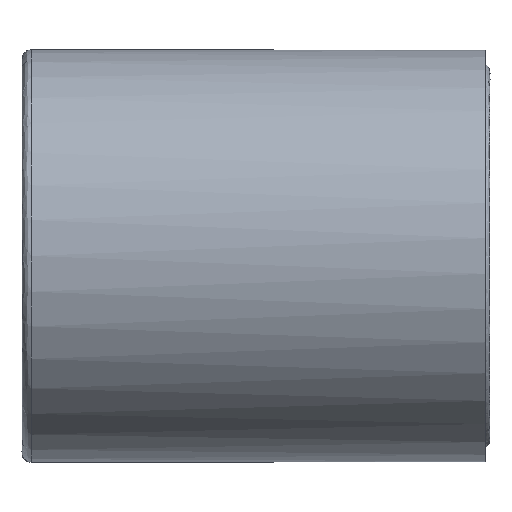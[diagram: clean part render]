
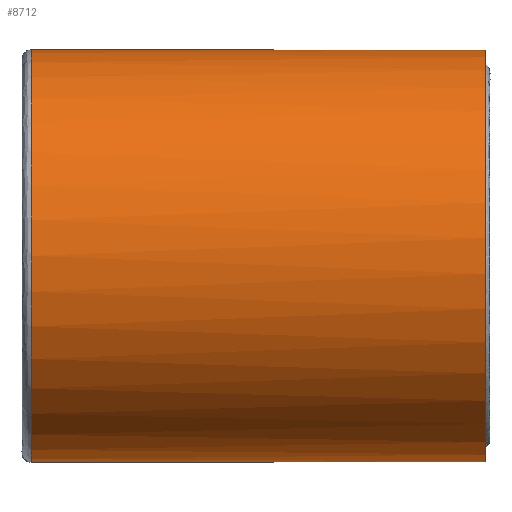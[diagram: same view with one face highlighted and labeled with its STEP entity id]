
A CAD part, front view. The second image highlights one B-rep face of the part: STEP entity #8712.
In plain terms, the highlighted cylindrical face has radius 22.5 mm (diameter 45 mm), a full revolution.
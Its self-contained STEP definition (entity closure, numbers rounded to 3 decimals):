
#60 = AXIS2_PLACEMENT_3D ( 'NONE', #8001, #1714, #9058 ) ;
#357 = CIRCLE ( 'NONE', #1511, 22.5 ) ;
#441 = VERTEX_POINT ( 'NONE', #7999 ) ;
#462 = LINE ( 'NONE', #5958, #11310 ) ;
#520 = VECTOR ( 'NONE', #4433, 1000. ) ;
#811 = CARTESIAN_POINT ( 'NONE',  ( -0.4, 0., 0. ) ) ;
#1511 = AXIS2_PLACEMENT_3D ( 'NONE', #10111, #3796, #11173 ) ;
#1570 = EDGE_CURVE ( 'NONE', #441, #11803, #7286, .T. ) ;
#1714 = DIRECTION ( 'NONE',  ( -1., 0., 0. ) ) ;
#2134 = DIRECTION ( 'NONE',  ( 1., 0., 0. ) ) ;
#2847 = CARTESIAN_POINT ( 'NONE',  ( -49.9, 22.5, 0. ) ) ;
#3148 = ORIENTED_EDGE ( 'NONE', *, *, #10001, .T. ) ;
#3796 = DIRECTION ( 'NONE',  ( -1., 0., 0. ) ) ;
#3868 = EDGE_LOOP ( 'NONE', ( #4754 ) ) ;
#4373 = CYLINDRICAL_SURFACE ( 'NONE', #6987, 22.5 ) ;
#4433 = DIRECTION ( 'NONE',  ( -1., 0., 0. ) ) ;
#4710 = FACE_OUTER_BOUND ( 'NONE', #11735, .T. ) ;
#4754 = ORIENTED_EDGE ( 'NONE', *, *, #5084, .T. ) ;
#4878 = ORIENTED_EDGE ( 'NONE', *, *, #1570, .T. ) ;
#4928 = AXIS2_PLACEMENT_3D ( 'NONE', #8438, #2134, #9493 ) ;
#5084 = EDGE_CURVE ( 'NONE', #12451, #12451, #7246, .T. ) ;
#5958 = CARTESIAN_POINT ( 'NONE',  ( -0.4, 20.156, -10. ) ) ;
#6987 = AXIS2_PLACEMENT_3D ( 'NONE', #811, #8151, #7104 ) ;
#7104 = DIRECTION ( 'NONE',  ( 0., 1., 0. ) ) ;
#7175 = VERTEX_POINT ( 'NONE', #12240 ) ;
#7246 = CIRCLE ( 'NONE', #4928, 22.5 ) ;
#7286 = CIRCLE ( 'NONE', #60, 22.5 ) ;
#7448 = VERTEX_POINT ( 'NONE', #10296 ) ;
#7501 = FACE_OUTER_BOUND ( 'NONE', #3868, .T. ) ;
#7999 = CARTESIAN_POINT ( 'NONE',  ( -24.17, 20.156, 10. ) ) ;
#8001 = CARTESIAN_POINT ( 'NONE',  ( -24.17, 0., 0. ) ) ;
#8151 = DIRECTION ( 'NONE',  ( 1., 0., 0. ) ) ;
#8438 = CARTESIAN_POINT ( 'NONE',  ( -49.9, 0., 0. ) ) ;
#8614 = EDGE_CURVE ( 'NONE', #11803, #7175, #462, .T. ) ;
#8712 = ADVANCED_FACE ( 'NONE', ( #4710, #7501 ), #4373, .T. ) ;
#8902 = LINE ( 'NONE', #11800, #520 ) ;
#9058 = DIRECTION ( 'NONE',  ( 0., 1., 0. ) ) ;
#9186 = ORIENTED_EDGE ( 'NONE', *, *, #8614, .T. ) ;
#9493 = DIRECTION ( 'NONE',  ( 0., 1., 0. ) ) ;
#9729 = ORIENTED_EDGE ( 'NONE', *, *, #11221, .T. ) ;
#10001 = EDGE_CURVE ( 'NONE', #7175, #7448, #357, .T. ) ;
#10111 = CARTESIAN_POINT ( 'NONE',  ( -0.4, 0., 0. ) ) ;
#10192 = DIRECTION ( 'NONE',  ( 1., 0., 0. ) ) ;
#10296 = CARTESIAN_POINT ( 'NONE',  ( -0.4, 20.156, 10. ) ) ;
#11069 = CARTESIAN_POINT ( 'NONE',  ( -24.17, 20.156, -10. ) ) ;
#11173 = DIRECTION ( 'NONE',  ( 0., 1., 0. ) ) ;
#11221 = EDGE_CURVE ( 'NONE', #7448, #441, #8902, .T. ) ;
#11310 = VECTOR ( 'NONE', #10192, 1000. ) ;
#11735 = EDGE_LOOP ( 'NONE', ( #9186, #3148, #9729, #4878 ) ) ;
#11800 = CARTESIAN_POINT ( 'NONE',  ( -0.4, 20.156, 10. ) ) ;
#11803 = VERTEX_POINT ( 'NONE', #11069 ) ;
#12240 = CARTESIAN_POINT ( 'NONE',  ( -0.4, 20.156, -10. ) ) ;
#12451 = VERTEX_POINT ( 'NONE', #2847 ) ;
